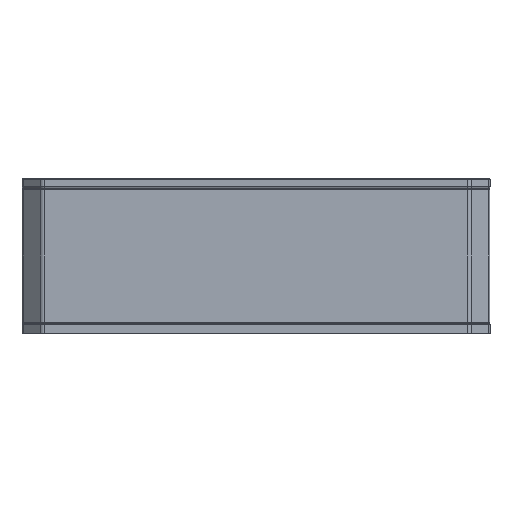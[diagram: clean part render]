
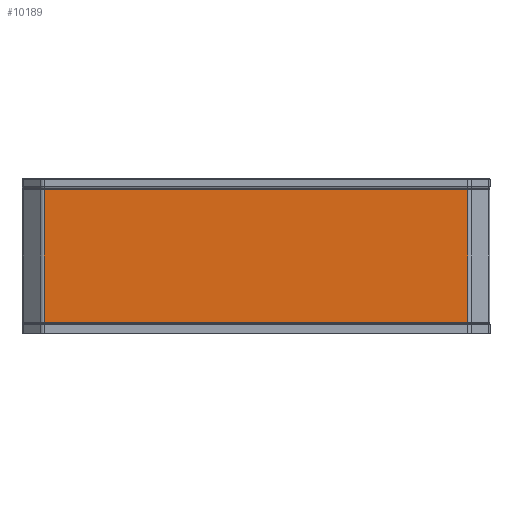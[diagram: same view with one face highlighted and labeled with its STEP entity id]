
A CAD part, left-side view. The second image highlights one B-rep face of the part: STEP entity #10189.
In plain terms, the highlighted planar face has unit normal (-1, 0, 0).
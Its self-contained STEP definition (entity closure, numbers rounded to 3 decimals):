
#4953=DIRECTION('',(0.,1.,0.));
#4954=VECTOR('',#4953,84.673);
#4955=CARTESIAN_POINT('',(-3.045,4.326,4.85));
#4956=LINE('',#4955,#4954);
#6349=DIRECTION('',(0.,-1.,0.));
#6350=VECTOR('',#6349,84.673);
#6351=CARTESIAN_POINT('',(-3.046,89.,-21.55));
#6352=LINE('',#6351,#6350);
#6476=DIRECTION('',(0.,0.,-1.));
#6477=VECTOR('',#6476,26.4);
#6478=CARTESIAN_POINT('',(-3.046,89.,4.85));
#6479=LINE('',#6478,#6477);
#6488=DIRECTION('',(0.,0.,1.));
#6489=VECTOR('',#6488,26.4);
#6490=CARTESIAN_POINT('',(-3.045,4.326,-21.55));
#6491=LINE('',#6490,#6489);
#7222=CARTESIAN_POINT('',(-3.046,89.,4.85));
#7223=VERTEX_POINT('',#7222);
#7224=CARTESIAN_POINT('',(-3.045,4.326,4.85));
#7225=VERTEX_POINT('',#7224);
#7472=CARTESIAN_POINT('',(-3.046,89.,-21.55));
#7473=VERTEX_POINT('',#7472);
#7474=CARTESIAN_POINT('',(-3.045,4.326,-21.55));
#7475=VERTEX_POINT('',#7474);
#10177=CARTESIAN_POINT('',(-3.045,5.826,5.15));
#10178=DIRECTION('',(-1.,0.,0.));
#10179=DIRECTION('',(0.,1.,0.));
#10180=AXIS2_PLACEMENT_3D('',#10177,#10178,#10179);
#10181=PLANE('',#10180);
#10182=ORIENTED_EDGE('',*,*,#8075,.F.);
#10184=ORIENTED_EDGE('',*,*,#10183,.F.);
#10185=ORIENTED_EDGE('',*,*,#9958,.F.);
#10186=ORIENTED_EDGE('',*,*,#10170,.F.);
#10187=EDGE_LOOP('',(#10182,#10184,#10185,#10186));
#10188=FACE_OUTER_BOUND('',#10187,.F.);
#10189=ADVANCED_FACE('',(#10188),#10181,.T.);
#8075=EDGE_CURVE('',#7225,#7223,#4956,.T.);
#9958=EDGE_CURVE('',#7473,#7475,#6352,.T.);
#10170=EDGE_CURVE('',#7223,#7473,#6479,.T.);
#10183=EDGE_CURVE('',#7475,#7225,#6491,.T.);
